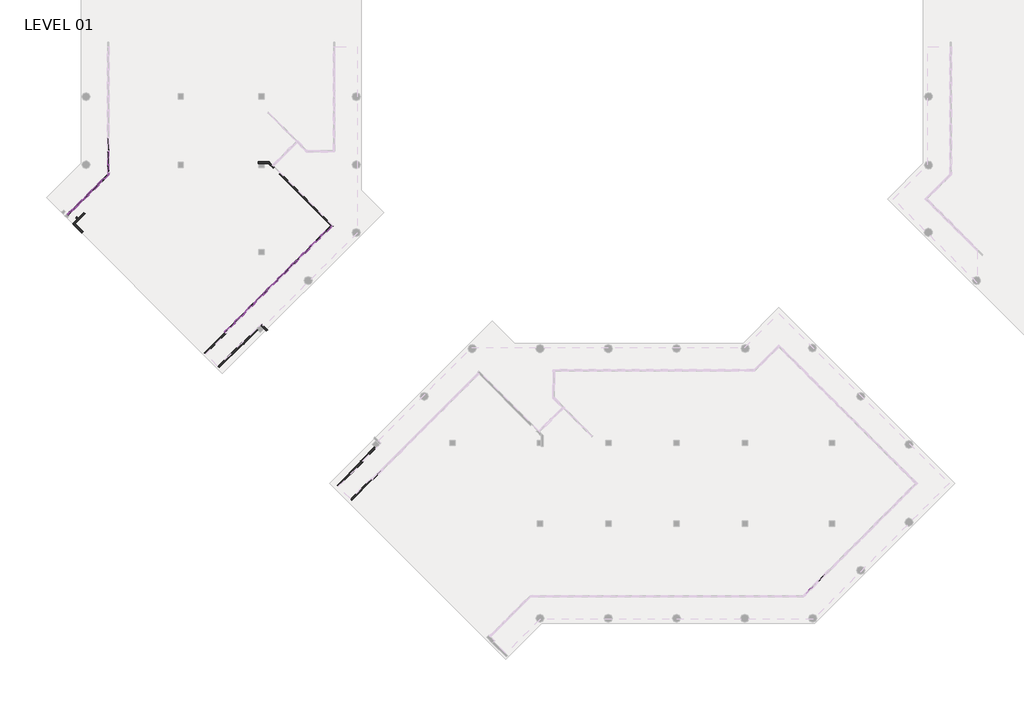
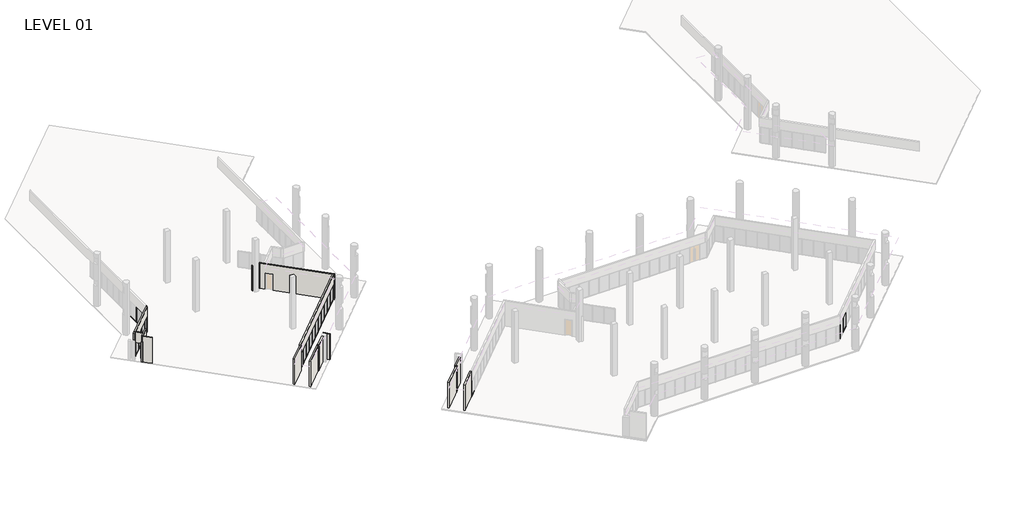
# One storey, part 2 of 24: 64 members, 19 plates, 16 walls.
"""IFC4 building model written with IfcOpenShell, lengths in millimetres."""

from ifc_helpers import new_model, si_unit, frame, origin, origin_with_axes, place, context, project, spatial, polyline, outline, extrude, faceted_brep, transform, mapped, element, save
from components import member_5247f267, member_e44af9ab, member_800970d4, member_cca1f9e6, member_ed5eb8ce, member_224475ab, member_ccf7f6e3, plate_67294edd, plate_ce959b8d, plate_43a54168, plate_d12b1ad5, plate_aaac5d3d, plate_5a14c350, plate_1cd28498

model = new_model("IFC4")

# Units and contexts
model_context = context("Model", 3, world=origin())
ifc_project = project(units=[si_unit("LENGTHUNIT", "METRE", prefix="MILLI")], contexts=[model_context])

# Site, building, storey
site = spatial("IfcSite", under=ifc_project)
building = spatial("IfcBuilding", under=site)
storey = spatial("IfcBuildingStorey", under=building, Name="LEVEL 01", Elevation=0.0)

# Members
placement = place(None, origin())
member_shape = member_5247f267(model_context)
element("IfcMember", 1, ObjectType="Rectangular Mullion : 2\" x 4.5\" rectangular", at=placement, inside=storey, context=model_context, shape_type="MappedRepresentation", body=[
    mapped(member_shape, transform((49217.02106, -686.9515705, 0.0), x_axis=(0.0, 0.0, -1.0), y_axis=(0.7071067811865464, -0.7071067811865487, 0.0), z_axis=(-0.7071067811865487, -0.7071067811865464, 0.0))),
])
element("IfcMember", 2, ObjectType="Rectangular Mullion : 2\" x 4.5\" rectangular", at=placement, inside=storey, context=model_context, shape_type="MappedRepresentation", body=[
    mapped(member_shape, transform((49181.1000355, -722.872595, 2590.8), x_axis=(0.0, 0.0, 1.0), y_axis=(0.7071067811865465, -0.7071067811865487, 0.0), z_axis=(0.7071067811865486, 0.7071067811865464, 0.0))),
])
member_2_shape = member_e44af9ab(model_context)
element("IfcMember", 3, ObjectType="Rectangular Mullion : 2\" x 4.5\" rectangular", at=placement, inside=storey, context=model_context, shape_type="MappedRepresentation", body=[
    mapped(member_2_shape, transform((49199.0605477, -704.9120828, 0.0), x_axis=(0.7071067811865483, 0.7071067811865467, 0.0), y_axis=(0.7071067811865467, -0.7071067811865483, 0.0), z_axis=(0.0, 0.0, -1.0))),
])
element("IfcMember", 4, ObjectType="Rectangular Mullion : 2\" x 4.5\" rectangular", at=placement, inside=storey, context=model_context, shape_type="MappedRepresentation", body=[
    mapped(member_2_shape, transform((48121.4298132, -1782.5428173, 0.0), x_axis=(0.7071067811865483, 0.7071067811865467, 0.0), y_axis=(0.7071067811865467, -0.7071067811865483, 0.0), z_axis=(0.0, 0.0, -1.0))),
])
member_3_shape = member_800970d4(model_context)
element("IfcMember", 5, ObjectType="Rectangular Mullion : 2\" x 4.5\" rectangular", at=placement, inside=storey, context=model_context, shape_type="MappedRepresentation", body=[
    mapped(member_3_shape, transform((-323.363229, 10916.8251457, 2590.8), x_axis=(-0.7071067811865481, -0.7071067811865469, 0.0), y_axis=(0.7071067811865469, -0.7071067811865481, 0.0), z_axis=(0.0, 0.0, 1.0))),
])
member_4_shape = member_cca1f9e6(model_context)
element("IfcMember", 6, ObjectType="Rectangular Mullion : 2\" x 4.5\" rectangular", at=placement, inside=storey, context=model_context, shape_type="MappedRepresentation", body=[
    mapped(member_4_shape, transform((-287.4422045, 10952.7461702, 0.0), x_axis=(0.0, 0.0, -1.0), y_axis=(0.707106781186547, -0.707106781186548, 0.0), z_axis=(-0.707106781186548, -0.707106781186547, 0.0))),
])
member_5_shape = member_ed5eb8ce(model_context)
element("IfcMember", 7, ObjectType="Rectangular Mullion : 2\" x 4.5\" rectangular", at=placement, inside=storey, context=model_context, shape_type="MappedRepresentation", body=[
    mapped(member_5_shape, transform((-29793.1847164, 46062.5675885, 2590.8), x_axis=(0.0, 0.0, 1.0), y_axis=(1.0, 0.0, 0.0), z_axis=(0.0, 1.0, 0.0))),
])
element("IfcMember", 8, ObjectType="Rectangular Mullion : 2\" x 4.5\" rectangular", at=placement, inside=storey, context=model_context, shape_type="MappedRepresentation", body=[
    mapped(member_5_shape, transform((-30534.0558464, 44273.9519611, 2590.8), x_axis=(0.0, 0.0, 1.0), y_axis=(-0.7071067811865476, 0.7071067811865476, 0.0), z_axis=(-0.7071067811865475, -0.7071067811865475, 0.0))),
])
element("IfcMember", 9, ObjectType="Rectangular Mullion : 2\" x 4.5\" rectangular", at=placement, inside=storey, context=model_context, shape_type="MappedRepresentation", body=[
    mapped(member_shape, transform((-29793.1847164, 47586.5675885, 2590.8), x_axis=(0.0, 0.0, 1.0), y_axis=(1.0, 0.0, 0.0), z_axis=(0.0, 1.0, 0.0))),
])
element("IfcMember", 10, ObjectType="Rectangular Mullion : 2\" x 4.5\" rectangular", at=placement, inside=storey, context=model_context, shape_type="MappedRepresentation", body=[
    mapped(member_shape, transform((-12482.5856117, 31661.2611906, 2590.8), x_axis=(0.0, 0.0, 1.0), y_axis=(0.7071067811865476, -0.7071067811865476, 0.0), z_axis=(0.7071067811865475, 0.7071067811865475, 0.0))),
])
element("IfcMember", 11, ObjectType="Rectangular Mullion : 2\" x 4.5\" rectangular", at=placement, inside=storey, context=model_context, shape_type="MappedRepresentation", body=[
    mapped(member_shape, transform((-10327.3537461, 33816.4930562, 2590.8), x_axis=(0.0, 0.0, 1.0), y_axis=(0.7071067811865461, -0.707106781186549, 0.0), z_axis=(0.707106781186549, 0.7071067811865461, 0.0))),
])
element("IfcMember", 12, ObjectType="Rectangular Mullion : 2\" x 4.5\" rectangular", at=placement, inside=storey, context=model_context, shape_type="MappedRepresentation", body=[
    mapped(member_shape, transform((-9249.7378133, 34894.108989, 2590.8), x_axis=(0.0, 0.0, 1.0), y_axis=(0.7071067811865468, -0.7071067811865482, 0.0), z_axis=(0.7071067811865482, 0.7071067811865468, 0.0))),
])
element("IfcMember", 13, ObjectType="Rectangular Mullion : 2\" x 4.5\" rectangular", at=placement, inside=storey, context=model_context, shape_type="MappedRepresentation", body=[
    mapped(member_shape, transform((-7094.4763443, 37049.370458, 2590.8), x_axis=(0.0, 0.0, 1.0), y_axis=(0.7071067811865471, -0.7071067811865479, 0.0), z_axis=(0.7071067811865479, 0.7071067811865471, 0.0))),
])
element("IfcMember", 14, ObjectType="Rectangular Mullion : 2\" x 4.5\" rectangular", at=placement, inside=storey, context=model_context, shape_type="MappedRepresentation", body=[
    mapped(member_shape, transform((-32689.3173154, 42118.6904921, 2590.8), x_axis=(0.0, 0.0, 1.0), y_axis=(-0.7071067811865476, 0.7071067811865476, 0.0), z_axis=(-0.7071067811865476, -0.7071067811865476, 0.0))),
])
element("IfcMember", 15, ObjectType="Rectangular Mullion : 2\" x 4.5\" rectangular", at=placement, inside=storey, context=model_context, shape_type="MappedRepresentation", body=[
    mapped(member_shape, transform((-14637.8174773, 29506.029325, 2590.8), x_axis=(0.0, 0.0, 1.0), y_axis=(0.7071067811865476, -0.7071067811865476, 0.0), z_axis=(0.7071067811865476, 0.7071067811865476, 0.0))),
])
element("IfcMember", 16, ObjectType="Rectangular Mullion : 2\" x 4.5\" rectangular", at=placement, inside=storey, context=model_context, shape_type="MappedRepresentation", body=[
    mapped(member_shape, transform((-11404.9696789, 32738.8771234, 2590.8), x_axis=(0.0, 0.0, 1.0), y_axis=(0.7071067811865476, -0.7071067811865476, 0.0), z_axis=(0.7071067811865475, 0.7071067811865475, 0.0))),
])
element("IfcMember", 17, ObjectType="Rectangular Mullion : 2\" x 4.5\" rectangular", at=placement, inside=storey, context=model_context, shape_type="MappedRepresentation", body=[
    mapped(member_shape, transform((-13560.2015445, 30583.6452578, 2590.8), x_axis=(0.0, 0.0, 1.0), y_axis=(0.7071067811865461, -0.707106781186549, 0.0), z_axis=(0.707106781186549, 0.7071067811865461, 0.0))),
])
element("IfcMember", 18, ObjectType="Rectangular Mullion : 2\" x 4.5\" rectangular", at=placement, inside=storey, context=model_context, shape_type="MappedRepresentation", body=[
    mapped(member_shape, transform((-8172.1070788, 35971.7397235, 2590.8), x_axis=(0.0, 0.0, 1.0), y_axis=(0.7071067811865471, -0.7071067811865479, 0.0), z_axis=(0.7071067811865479, 0.7071067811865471, 0.0))),
])
element("IfcMember", 19, ObjectType="Rectangular Mullion : 2\" x 4.5\" rectangular", at=placement, inside=storey, context=model_context, shape_type="MappedRepresentation", body=[
    mapped(member_shape, transform((-6016.8456097, 38127.0011926, 2590.8), x_axis=(0.0, 0.0, 1.0), y_axis=(0.7071067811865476, -0.7071067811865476, 0.0), z_axis=(0.7071067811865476, 0.7071067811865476, 0.0))),
])
element("IfcMember", 20, ObjectType="Rectangular Mullion : 2\" x 4.5\" rectangular", at=placement, inside=storey, context=model_context, shape_type="MappedRepresentation", body=[
    mapped(member_shape, transform((-31611.6865809, 43196.3212266, 2590.8), x_axis=(0.0, 0.0, 1.0), y_axis=(-0.7071067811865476, 0.7071067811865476, 0.0), z_axis=(-0.7071067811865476, -0.7071067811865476, 0.0))),
])
element("IfcMember", 21, ObjectType="Rectangular Mullion : 2\" x 4.5\" rectangular", at=placement, inside=storey, context=model_context, shape_type="MappedRepresentation", body=[
    mapped(member_shape, transform((-33766.94805, 41041.0597576, 2590.8), x_axis=(0.0, 0.0, 1.0), y_axis=(-0.7071067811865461, 0.707106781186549, 0.0), z_axis=(-0.7071067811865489, -0.707106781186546, 0.0))),
])
element("IfcMember", 22, ObjectType="Rectangular Mullion : 2\" x 4.5\" rectangular", at=placement, inside=storey, context=model_context, shape_type="MappedRepresentation", body=[
    mapped(member_5_shape, transform((-29793.1847164, 45065.6230911, 0.0), x_axis=(0.0, 0.0, -1.0), y_axis=(1.0, 0.0, 0.0), z_axis=(0.0, -1.0, 0.0))),
])
element("IfcMember", 23, ObjectType="Rectangular Mullion : 2\" x 4.5\" rectangular", at=placement, inside=storey, context=model_context, shape_type="MappedRepresentation", body=[
    mapped(member_5_shape, transform((-29829.1057409, 44978.9020666, 0.0), x_axis=(0.0, 0.0, -1.0), y_axis=(-0.7071067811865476, 0.7071067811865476, 0.0), z_axis=(0.7071067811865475, 0.7071067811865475, 0.0))),
])
element("IfcMember", 24, ObjectType="Rectangular Mullion : 2\" x 4.5\" rectangular", at=placement, inside=storey, context=model_context, shape_type="MappedRepresentation", body=[
    mapped(member_shape, transform((-29793.1847164, 46113.3675885, 0.0), x_axis=(0.0, 0.0, -1.0), y_axis=(1.0, 0.0, 0.0), z_axis=(0.0, -1.0, 0.0))),
])
element("IfcMember", 25, ObjectType="Rectangular Mullion : 2\" x 4.5\" rectangular", at=placement, inside=storey, context=model_context, shape_type="MappedRepresentation", body=[
    mapped(member_shape, transform((-29793.1847164, 47637.3675885, 0.0), x_axis=(0.0, 0.0, -1.0), y_axis=(1.0, 0.0, 0.0), z_axis=(0.0, -1.0, 0.0))),
])
element("IfcMember", 26, ObjectType="Rectangular Mullion : 2\" x 4.5\" rectangular", at=placement, inside=storey, context=model_context, shape_type="MappedRepresentation", body=[
    mapped(member_shape, transform((-30569.9768709, 44238.0309367, 0.0), x_axis=(0.0, 0.0, -1.0), y_axis=(-0.7071067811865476, 0.7071067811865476, 0.0), z_axis=(0.7071067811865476, 0.7071067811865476, 0.0))),
])
element("IfcMember", 27, ObjectType="Rectangular Mullion : 2\" x 4.5\" rectangular", at=placement, inside=storey, context=model_context, shape_type="MappedRepresentation", body=[
    mapped(member_shape, transform((-15679.5271874, 28464.3196149, 0.0), x_axis=(0.0, 0.0, -1.0), y_axis=(0.7071067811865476, -0.7071067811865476, 0.0), z_axis=(-0.7071067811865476, -0.7071067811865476, 0.0))),
])
element("IfcMember", 28, ObjectType="Rectangular Mullion : 2\" x 4.5\" rectangular", at=placement, inside=storey, context=model_context, shape_type="MappedRepresentation", body=[
    mapped(member_shape, transform((-12446.6645873, 31697.1822151, 0.0), x_axis=(0.0, 0.0, -1.0), y_axis=(0.7071067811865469, -0.7071067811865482, 0.0), z_axis=(-0.7071067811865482, -0.7071067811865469, 0.0))),
])
element("IfcMember", 29, ObjectType="Rectangular Mullion : 2\" x 4.5\" rectangular", at=placement, inside=storey, context=model_context, shape_type="MappedRepresentation", body=[
    mapped(member_shape, transform((-10291.4327217, 33852.4140807, 0.0), x_axis=(0.0, 0.0, -1.0), y_axis=(0.7071067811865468, -0.7071067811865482, 0.0), z_axis=(-0.7071067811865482, -0.7071067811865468, 0.0))),
])
element("IfcMember", 30, ObjectType="Rectangular Mullion : 2\" x 4.5\" rectangular", at=placement, inside=storey, context=model_context, shape_type="MappedRepresentation", body=[
    mapped(member_shape, transform((-9213.8167888, 34930.0300135, 0.0), x_axis=(0.0, 0.0, -1.0), y_axis=(0.7071067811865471, -0.7071067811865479, 0.0), z_axis=(-0.7071067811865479, -0.7071067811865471, 0.0))),
])
element("IfcMember", 31, ObjectType="Rectangular Mullion : 2\" x 4.5\" rectangular", at=placement, inside=storey, context=model_context, shape_type="MappedRepresentation", body=[
    mapped(member_shape, transform((-7058.5553198, 37085.2914825, 0.0), x_axis=(0.0, 0.0, -1.0), y_axis=(0.7071067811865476, -0.7071067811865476, 0.0), z_axis=(-0.7071067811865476, -0.7071067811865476, 0.0))),
])
element("IfcMember", 32, ObjectType="Rectangular Mullion : 2\" x 4.5\" rectangular", at=placement, inside=storey, context=model_context, shape_type="MappedRepresentation", body=[
    mapped(member_shape, transform((-32725.2383399, 42082.7694676, 0.0), x_axis=(0.0, 0.0, -1.0), y_axis=(-0.7071067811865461, 0.707106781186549, 0.0), z_axis=(0.7071067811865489, 0.707106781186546, 0.0))),
])
element("IfcMember", 33, ObjectType="Rectangular Mullion : 2\" x 4.5\" rectangular", at=placement, inside=storey, context=model_context, shape_type="MappedRepresentation", body=[
    mapped(member_shape, transform((-14601.8964529, 29541.9503495, 0.0), x_axis=(0.0, 0.0, -1.0), y_axis=(0.7071067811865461, -0.707106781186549, 0.0), z_axis=(-0.707106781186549, -0.7071067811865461, 0.0))),
])
element("IfcMember", 34, ObjectType="Rectangular Mullion : 2\" x 4.5\" rectangular", at=placement, inside=storey, context=model_context, shape_type="MappedRepresentation", body=[
    mapped(member_shape, transform((-11369.0486545, 32774.7981479, 0.0), x_axis=(0.0, 0.0, -1.0), y_axis=(0.7071067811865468, -0.7071067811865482, 0.0), z_axis=(-0.7071067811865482, -0.7071067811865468, 0.0))),
])
element("IfcMember", 35, ObjectType="Rectangular Mullion : 2\" x 4.5\" rectangular", at=placement, inside=storey, context=model_context, shape_type="MappedRepresentation", body=[
    mapped(member_shape, transform((-13524.2805201, 30619.5662823, 0.0), x_axis=(0.0, 0.0, -1.0), y_axis=(0.7071067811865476, -0.7071067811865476, 0.0), z_axis=(-0.7071067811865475, -0.7071067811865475, 0.0))),
])
element("IfcMember", 36, ObjectType="Rectangular Mullion : 2\" x 4.5\" rectangular", at=placement, inside=storey, context=model_context, shape_type="MappedRepresentation", body=[
    mapped(member_shape, transform((-8136.1860543, 36007.660748, 0.0), x_axis=(0.0, 0.0, -1.0), y_axis=(0.7071067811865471, -0.7071067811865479, 0.0), z_axis=(-0.7071067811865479, -0.7071067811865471, 0.0))),
])
element("IfcMember", 37, ObjectType="Rectangular Mullion : 2\" x 4.5\" rectangular", at=placement, inside=storey, context=model_context, shape_type="MappedRepresentation", body=[
    mapped(member_shape, transform((-31647.6076054, 43160.4002021, 0.0), x_axis=(0.0, 0.0, -1.0), y_axis=(-0.7071067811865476, 0.7071067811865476, 0.0), z_axis=(0.7071067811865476, 0.7071067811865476, 0.0))),
])
element("IfcMember", 38, ObjectType="Rectangular Mullion : 2\" x 4.5\" rectangular", at=placement, inside=storey, context=model_context, shape_type="MappedRepresentation", body=[
    mapped(member_2_shape, transform((-29793.1847164, 46087.9675885, 0.0), x_axis=(0.0, 1.0, 0.0), y_axis=(1.0, 0.0, 0.0), z_axis=(0.0, 0.0, -1.0))),
])
element("IfcMember", 39, ObjectType="Rectangular Mullion : 2\" x 4.5\" rectangular", at=placement, inside=storey, context=model_context, shape_type="MappedRepresentation", body=[
    mapped(member_2_shape, transform((-29793.1847164, 47611.9675885, 0.0), x_axis=(0.0, 1.0, 0.0), y_axis=(1.0, 0.0, 0.0), z_axis=(0.0, 0.0, -1.0))),
])
element("IfcMember", 40, ObjectType="Rectangular Mullion : 2\" x 4.5\" rectangular", at=placement, inside=storey, context=model_context, shape_type="MappedRepresentation", body=[
    mapped(member_2_shape, transform((-30552.0163586, 44255.9914489, 0.0), x_axis=(-0.7071067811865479, -0.7071067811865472, 0.0), y_axis=(-0.7071067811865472, 0.7071067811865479, 0.0), z_axis=(0.0, 0.0, -1.0))),
])
element("IfcMember", 41, ObjectType="Rectangular Mullion : 2\" x 4.5\" rectangular", at=placement, inside=storey, context=model_context, shape_type="MappedRepresentation", body=[
    mapped(member_2_shape, transform((-15697.4876996, 28446.3591027, 0.0), x_axis=(0.7071067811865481, 0.7071067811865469, 0.0), y_axis=(0.7071067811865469, -0.7071067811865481, 0.0), z_axis=(0.0, 0.0, -1.0))),
])
element("IfcMember", 42, ObjectType="Rectangular Mullion : 2\" x 4.5\" rectangular", at=placement, inside=storey, context=model_context, shape_type="MappedRepresentation", body=[
    mapped(member_2_shape, transform((-12464.6250995, 31679.2217028, 0.0), x_axis=(0.7071067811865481, 0.7071067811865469, 0.0), y_axis=(0.7071067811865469, -0.7071067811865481, 0.0), z_axis=(0.0, 0.0, -1.0))),
])
element("IfcMember", 43, ObjectType="Rectangular Mullion : 2\" x 4.5\" rectangular", at=placement, inside=storey, context=model_context, shape_type="MappedRepresentation", body=[
    mapped(member_2_shape, transform((-10309.3932339, 33834.4535684, 0.0), x_axis=(0.7071067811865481, 0.7071067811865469, 0.0), y_axis=(0.7071067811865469, -0.7071067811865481, 0.0), z_axis=(0.0, 0.0, -1.0))),
])
element("IfcMember", 44, ObjectType="Rectangular Mullion : 2\" x 4.5\" rectangular", at=placement, inside=storey, context=model_context, shape_type="MappedRepresentation", body=[
    mapped(member_2_shape, transform((-9231.7773011, 34912.0695012, 0.0), x_axis=(0.7071067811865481, 0.7071067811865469, 0.0), y_axis=(0.7071067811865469, -0.7071067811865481, 0.0), z_axis=(0.0, 0.0, -1.0))),
])
element("IfcMember", 45, ObjectType="Rectangular Mullion : 2\" x 4.5\" rectangular", at=placement, inside=storey, context=model_context, shape_type="MappedRepresentation", body=[
    mapped(member_2_shape, transform((-7076.515832, 37067.3309703, 0.0), x_axis=(0.7071067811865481, 0.7071067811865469, 0.0), y_axis=(0.7071067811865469, -0.7071067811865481, 0.0), z_axis=(0.0, 0.0, -1.0))),
])
element("IfcMember", 46, ObjectType="Rectangular Mullion : 2\" x 4.5\" rectangular", at=placement, inside=storey, context=model_context, shape_type="MappedRepresentation", body=[
    mapped(member_2_shape, transform((-32707.2778277, 42100.7299798, 0.0), x_axis=(-0.7071067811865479, -0.7071067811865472, 0.0), y_axis=(-0.7071067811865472, 0.7071067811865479, 0.0), z_axis=(0.0, 0.0, -1.0))),
])
element("IfcMember", 47, ObjectType="Rectangular Mullion : 2\" x 4.5\" rectangular", at=placement, inside=storey, context=model_context, shape_type="MappedRepresentation", body=[
    mapped(member_2_shape, transform((-14619.8569651, 29523.9898372, 0.0), x_axis=(0.7071067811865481, 0.7071067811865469, 0.0), y_axis=(0.7071067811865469, -0.7071067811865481, 0.0), z_axis=(0.0, 0.0, -1.0))),
])
element("IfcMember", 48, ObjectType="Rectangular Mullion : 2\" x 4.5\" rectangular", at=placement, inside=storey, context=model_context, shape_type="MappedRepresentation", body=[
    mapped(member_2_shape, transform((-11387.0091667, 32756.8376356, 0.0), x_axis=(0.7071067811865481, 0.7071067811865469, 0.0), y_axis=(0.7071067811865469, -0.7071067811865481, 0.0), z_axis=(0.0, 0.0, -1.0))),
])
element("IfcMember", 49, ObjectType="Rectangular Mullion : 2\" x 4.5\" rectangular", at=placement, inside=storey, context=model_context, shape_type="MappedRepresentation", body=[
    mapped(member_2_shape, transform((-13542.2410323, 30601.60577, 0.0), x_axis=(0.7071067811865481, 0.7071067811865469, 0.0), y_axis=(0.7071067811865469, -0.7071067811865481, 0.0), z_axis=(0.0, 0.0, -1.0))),
])
element("IfcMember", 50, ObjectType="Rectangular Mullion : 2\" x 4.5\" rectangular", at=placement, inside=storey, context=model_context, shape_type="MappedRepresentation", body=[
    mapped(member_2_shape, transform((-8154.1465666, 35989.7002358, 0.0), x_axis=(0.7071067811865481, 0.7071067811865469, 0.0), y_axis=(0.7071067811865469, -0.7071067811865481, 0.0), z_axis=(0.0, 0.0, -1.0))),
])
element("IfcMember", 51, ObjectType="Rectangular Mullion : 2\" x 4.5\" rectangular", at=placement, inside=storey, context=model_context, shape_type="MappedRepresentation", body=[
    mapped(member_2_shape, transform((-5998.8850975, 38144.9617048, 0.0), x_axis=(0.7071067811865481, 0.7071067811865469, 0.0), y_axis=(0.7071067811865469, -0.7071067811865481, 0.0), z_axis=(0.0, 0.0, -1.0))),
])
element("IfcMember", 52, ObjectType="Rectangular Mullion : 2\" x 4.5\" rectangular", at=placement, inside=storey, context=model_context, shape_type="MappedRepresentation", body=[
    mapped(member_2_shape, transform((-31629.6470932, 43178.3607144, 0.0), x_axis=(-0.7071067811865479, -0.7071067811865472, 0.0), y_axis=(-0.7071067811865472, 0.7071067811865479, 0.0), z_axis=(0.0, 0.0, -1.0))),
])
element("IfcMember", 53, ObjectType="Rectangular Mullion : 2\" x 4.5\" rectangular", at=placement, inside=storey, context=model_context, shape_type="MappedRepresentation", body=[
    mapped(member_2_shape, transform((-33784.9085622, 41023.0992453, 0.0), x_axis=(-0.7071067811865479, -0.7071067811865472, 0.0), y_axis=(-0.7071067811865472, 0.7071067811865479, 0.0), z_axis=(0.0, 0.0, -1.0))),
])
element("IfcMember", 54, ObjectType="Rectangular Mullion : 2\" x 4.5\" rectangular", at=placement, inside=storey, context=model_context, shape_type="MappedRepresentation", body=[
    mapped(member_3_shape, transform((-34290.1704187, 40517.8373888, 0.0), x_axis=(-0.7071067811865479, -0.7071067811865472, 0.0), y_axis=(-0.7071067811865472, 0.7071067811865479, 0.0), z_axis=(0.0, 0.0, -1.0))),
])
element("IfcMember", 55, ObjectType="Rectangular Mullion : 2\" x 4.5\" rectangular", at=placement, inside=storey, context=model_context, shape_type="MappedRepresentation", body=[
    mapped(member_3_shape, transform((-4921.254363, 39222.5924393, 0.0), x_axis=(0.7071067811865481, 0.7071067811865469, 0.0), y_axis=(0.7071067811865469, -0.7071067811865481, 0.0), z_axis=(0.0, 0.0, -1.0))),
])
element("IfcMember", 56, ObjectType="Rectangular Mullion : 2\" x 4.5\" rectangular", at=placement, inside=storey, context=model_context, shape_type="MappedRepresentation", body=[
    mapped(member_3_shape, transform((-29793.1847164, 45014.8230911, 2590.8), x_axis=(0.0, -1.0, 0.0), y_axis=(1.0, 0.0, 0.0), z_axis=(0.0, 0.0, 1.0))),
])
element("IfcMember", 57, ObjectType="Rectangular Mullion : 2\" x 4.5\" rectangular", at=placement, inside=storey, context=model_context, shape_type="MappedRepresentation", body=[
    mapped(member_3_shape, transform((-29793.1847164, 45014.8230911, 2590.8), x_axis=(0.7071067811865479, 0.7071067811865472, 0.0), y_axis=(-0.7071067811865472, 0.7071067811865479, 0.0), z_axis=(0.0, 0.0, 1.0))),
])
element("IfcMember", 58, ObjectType="Rectangular Mullion : 2\" x 4.5\" rectangular", at=placement, inside=storey, context=model_context, shape_type="MappedRepresentation", body=[
    mapped(member_3_shape, transform((-16775.1924428, 27368.6543595, 2590.8), x_axis=(-0.7071067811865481, -0.7071067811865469, 0.0), y_axis=(0.7071067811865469, -0.7071067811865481, 0.0), z_axis=(0.0, 0.0, 1.0))),
])
member_6_shape = member_224475ab(model_context)
element("IfcMember", 59, ObjectType="Rectangular Mullion : 2\" x 4.5\" rectangular", at=placement, inside=storey, context=model_context, shape_type="MappedRepresentation", body=[
    mapped(member_6_shape, transform((-34254.2493943, 40553.7584133, 2590.8), x_axis=(0.0, 0.0, 1.0), y_axis=(-0.7071067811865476, 0.7071067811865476, 0.0), z_axis=(-0.7071067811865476, -0.7071067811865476, 0.0))),
])
element("IfcMember", 60, ObjectType="Rectangular Mullion : 2\" x 4.5\" rectangular", at=placement, inside=storey, context=model_context, shape_type="MappedRepresentation", body=[
    mapped(member_6_shape, transform((-33802.8690745, 41005.1387331, 0.0), x_axis=(0.0, 0.0, -1.0), y_axis=(-0.7071067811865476, 0.7071067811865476, 0.0), z_axis=(0.7071067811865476, 0.7071067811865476, 0.0))),
])
element("IfcMember", 61, ObjectType="Rectangular Mullion : 2\" x 4.5\" rectangular", at=placement, inside=storey, context=model_context, shape_type="MappedRepresentation", body=[
    mapped(member_4_shape, transform((-4957.1753875, 39186.6714149, 2590.8), x_axis=(0.0, 0.0, 1.0), y_axis=(0.7071067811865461, -0.707106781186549, 0.0), z_axis=(0.7071067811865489, 0.707106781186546, 0.0))),
])
element("IfcMember", 62, ObjectType="Rectangular Mullion : 2\" x 4.5\" rectangular", at=placement, inside=storey, context=model_context, shape_type="MappedRepresentation", body=[
    mapped(member_4_shape, transform((-15715.4482119, 28428.3985904, 2590.8), x_axis=(0.0, 0.0, 1.0), y_axis=(0.7071067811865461, -0.707106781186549, 0.0), z_axis=(0.707106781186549, 0.7071067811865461, 0.0))),
])
member_7_shape = member_ccf7f6e3(model_context)
element("IfcMember", 63, ObjectType="Rectangular Mullion : 2\" x 4.5\" rectangular", at=placement, inside=storey, context=model_context, shape_type="MappedRepresentation", body=[
    mapped(member_7_shape, transform((-16739.2714183, 27404.575384, 0.0), x_axis=(0.0, 0.0, -1.0), y_axis=(0.7071067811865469, -0.7071067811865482, 0.0), z_axis=(-0.7071067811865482, -0.7071067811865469, 0.0))),
])
element("IfcMember", 64, ObjectType="Rectangular Mullion : 2\" x 4.5\" rectangular", at=placement, inside=storey, context=model_context, shape_type="MappedRepresentation", body=[
    mapped(member_7_shape, transform((-5980.9245853, 38162.9222171, 0.0), x_axis=(0.0, 0.0, -1.0), y_axis=(0.7071067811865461, -0.707106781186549, 0.0), z_axis=(-0.7071067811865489, -0.707106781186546, 0.0))),
])

# Plates
plate_shape = plate_67294edd(model_context)
element("IfcPlate", 65, ObjectType="System Panel : 1/4\" Glass", at=placement, inside=storey, context=model_context, shape_type="MappedRepresentation", body=[
    mapped(plate_shape, transform((49737.875915, -166.0967155, 50.8), x_axis=(0.7071067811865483, 0.7071067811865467, 0.0), y_axis=(-0.7071067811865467, 0.7071067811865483, 0.0), z_axis=(0.0, 0.0, 1.0))),
])
plate_2_shape = plate_ce959b8d(model_context)
element("IfcPlate", 66, ObjectType="System Panel : 1/4\" Glass", at=placement, inside=storey, context=model_context, shape_type="MappedRepresentation", body=[
    mapped(plate_2_shape, transform((-29793.1847164, 45564.0953398, 50.8), x_axis=(0.0, 1.0, 0.0), y_axis=(-1.0, 0.0, 0.0), z_axis=(0.0, 0.0, 1.0))),
])
element("IfcPlate", 67, ObjectType="System Panel : 1/4\" Glass", at=placement, inside=storey, context=model_context, shape_type="MappedRepresentation", body=[
    mapped(plate_shape, transform((-29793.1847164, 46849.9675885, 50.8), x_axis=(0.0, 1.0, 0.0), y_axis=(-1.0, 0.0, 0.0), z_axis=(0.0, 0.0, 1.0))),
])
element("IfcPlate", 68, ObjectType="System Panel : 1/4\" Glass", at=placement, inside=storey, context=model_context, shape_type="MappedRepresentation", body=[
    mapped(plate_shape, transform((-31090.8317259, 43717.1760816, 50.8), x_axis=(-0.7071067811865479, -0.7071067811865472, 0.0), y_axis=(0.7071067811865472, -0.7071067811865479, 0.0), z_axis=(0.0, 0.0, 1.0))),
])
element("IfcPlate", 69, ObjectType="System Panel : 1/4\" Glass", at=placement, inside=storey, context=model_context, shape_type="MappedRepresentation", body=[
    mapped(plate_shape, transform((-15158.6723324, 28985.17447, 50.8), x_axis=(0.7071067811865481, 0.7071067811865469, 0.0), y_axis=(-0.7071067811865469, 0.7071067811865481, 0.0), z_axis=(0.0, 0.0, 1.0))),
])
element("IfcPlate", 70, ObjectType="System Panel : 1/4\" Glass", at=placement, inside=storey, context=model_context, shape_type="MappedRepresentation", body=[
    mapped(plate_shape, transform((-8692.9619338, 35450.8848685, 50.8), x_axis=(0.7071067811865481, 0.7071067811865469, 0.0), y_axis=(-0.7071067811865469, 0.7071067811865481, 0.0), z_axis=(0.0, 0.0, 1.0))),
])
element("IfcPlate", 71, ObjectType="System Panel : 1/4\" Glass", at=placement, inside=storey, context=model_context, shape_type="MappedRepresentation", body=[
    mapped(plate_shape, transform((-6537.7004648, 37606.1463375, 50.8), x_axis=(0.7071067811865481, 0.7071067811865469, 0.0), y_axis=(-0.7071067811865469, 0.7071067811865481, 0.0), z_axis=(0.0, 0.0, 1.0))),
])
element("IfcPlate", 72, ObjectType="System Panel : 1/4\" Glass", at=placement, inside=storey, context=model_context, shape_type="MappedRepresentation", body=[
    mapped(plate_shape, transform((-33246.093195, 41561.9146126, 50.8), x_axis=(-0.7071067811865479, -0.7071067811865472, 0.0), y_axis=(0.7071067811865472, -0.7071067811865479, 0.0), z_axis=(0.0, 0.0, 1.0))),
])
element("IfcPlate", 73, ObjectType="System Panel : 1/4\" Glass", at=placement, inside=storey, context=model_context, shape_type="MappedRepresentation", body=[
    mapped(plate_shape, transform((-7615.3311993, 36528.515603, 50.8), x_axis=(0.7071067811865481, 0.7071067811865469, 0.0), y_axis=(-0.7071067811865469, 0.7071067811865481, 0.0), z_axis=(0.0, 0.0, 1.0))),
])
element("IfcPlate", 74, ObjectType="System Panel : 1/4\" Glass", at=placement, inside=storey, context=model_context, shape_type="MappedRepresentation", body=[
    mapped(plate_shape, transform((-32168.4624604, 42639.5453471, 50.8), x_axis=(-0.7071067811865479, -0.7071067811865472, 0.0), y_axis=(0.7071067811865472, -0.7071067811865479, 0.0), z_axis=(0.0, 0.0, 1.0))),
])
plate_3_shape = plate_43a54168(model_context)
element("IfcPlate", 75, ObjectType="System Panel : 1/4\" Glass", at=placement, inside=storey, context=model_context, shape_type="MappedRepresentation", body=[
    mapped(plate_3_shape, transform((-30181.5807936, 44626.4270139, 50.8), x_axis=(-0.7071067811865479, -0.7071067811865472, 0.0), y_axis=(0.7071067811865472, -0.7071067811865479, 0.0), z_axis=(0.0, 0.0, 1.0))),
])
plate_4_shape = plate_d12b1ad5(model_context)
element("IfcPlate", 76, ObjectType="System Panel : 1/4\" Glass", at=placement, inside=storey, context=model_context, shape_type="MappedRepresentation", body=[
    mapped(plate_4_shape, transform((-16227.3598151, 27916.4869872, 50.8), x_axis=(0.7071067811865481, 0.7071067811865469, 0.0), y_axis=(-0.7071067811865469, 0.7071067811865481, 0.0), z_axis=(0.0, 0.0, 1.0))),
])
plate_5_shape = plate_aaac5d3d(model_context)
element("IfcPlate", 77, ObjectType="System Panel : 1/4\" Glass", at=placement, inside=storey, context=model_context, shape_type="MappedRepresentation", body=[
    mapped(plate_5_shape, transform((-11925.8171331, 32218.0296692, 50.8), x_axis=(0.7071067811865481, 0.7071067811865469, 0.0), y_axis=(-0.7071067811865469, 0.7071067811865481, 0.0), z_axis=(0.0, 0.0, 1.0))),
])
element("IfcPlate", 78, ObjectType="System Panel : 1/4\" Glass", at=placement, inside=storey, context=model_context, shape_type="MappedRepresentation", body=[
    mapped(plate_5_shape, transform((-9770.5852675, 34373.2615348, 50.8), x_axis=(0.7071067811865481, 0.7071067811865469, 0.0), y_axis=(-0.7071067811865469, 0.7071067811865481, 0.0), z_axis=(0.0, 0.0, 1.0))),
])
element("IfcPlate", 79, ObjectType="System Panel : 1/4\" Glass", at=placement, inside=storey, context=model_context, shape_type="MappedRepresentation", body=[
    mapped(plate_5_shape, transform((-14081.0489987, 30062.7978036, 50.8), x_axis=(0.7071067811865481, 0.7071067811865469, 0.0), y_axis=(-0.7071067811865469, 0.7071067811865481, 0.0), z_axis=(0.0, 0.0, 1.0))),
])
element("IfcPlate", 80, ObjectType="System Panel : 1/4\" Glass", at=placement, inside=storey, context=model_context, shape_type="MappedRepresentation", body=[
    mapped(plate_5_shape, transform((-10848.2012003, 33295.645602, 50.8), x_axis=(0.7071067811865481, 0.7071067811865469, 0.0), y_axis=(-0.7071067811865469, 0.7071067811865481, 0.0), z_axis=(0.0, 0.0, 1.0))),
])
element("IfcPlate", 81, ObjectType="System Panel : 1/4\" Glass", at=placement, inside=storey, context=model_context, shape_type="MappedRepresentation", body=[
    mapped(plate_5_shape, transform((-13003.4330659, 31140.4137364, 50.8), x_axis=(0.7071067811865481, 0.7071067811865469, 0.0), y_axis=(-0.7071067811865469, 0.7071067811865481, 0.0), z_axis=(0.0, 0.0, 1.0))),
])
plate_6_shape = plate_5a14c350(model_context)
element("IfcPlate", 82, ObjectType="System Panel : 1/4\" Glass", at=placement, inside=storey, context=model_context, shape_type="MappedRepresentation", body=[
    mapped(plate_6_shape, transform((-5469.0499864, 38674.796816, 50.8), x_axis=(0.7071067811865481, 0.7071067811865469, 0.0), y_axis=(-0.7071067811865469, 0.7071067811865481, 0.0), z_axis=(0.0, 0.0, 1.0))),
])
plate_7_shape = plate_1cd28498(model_context)
element("IfcPlate", 83, ObjectType="System Panel : 1/4\" Glass", at=placement, inside=storey, context=model_context, shape_type="MappedRepresentation", body=[
    mapped(plate_7_shape, transform((-34028.5592344, 40779.4485732, 50.8), x_axis=(-0.7071067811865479, -0.7071067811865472, 0.0), y_axis=(0.7071067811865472, -0.7071067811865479, 0.0), z_axis=(0.0, 0.0, 1.0))),
])

# Walls
element("IfcWall", 84, ObjectType="01-MASONRY-8", at=placement, inside=storey, context=model_context, shape_type="SweptSolid", body=[
    extrude(outline(polyline([(-318.0298477, 10911.6397817), (-2608.7644032, 8620.9052263), (-2752.4485011, 8764.5893243), (-461.7139457, 11055.3238797), (-318.0298477, 10911.6397817)])), origin_with_axes(), (0.0, 0.0, 1.0), 4089.4),
])
element("IfcWall", 85, ObjectType="01-MASONRY-8", at=placement, inside=storey, context=model_context, shape_type="SweptSolid", body=[
    extrude(outline(polyline([(-1464.5509923, 12793.0034391), (-4122.7068041, 10134.8476273), (-4266.3909021, 10278.5317252), (-1608.2350902, 12936.687537), (-1464.5509923, 12793.0034391)])), origin_with_axes(), (0.0, 0.0, 1.0), 4089.4),
])
element("IfcWall", 86, ObjectType="01-MASONRY-8", at=placement, inside=storey, context=model_context, shape_type="Brep", body=[
    faceted_brep([(-1320.8668944, 12936.687537, 0.0), (-1374.7484311, 12990.5690738, 0.0), (-1518.432529, 13134.2531717, 0.0), (-1518.432529, 13134.2531717, 4089.4), (-1374.7484311, 12990.5690738, 4089.4), (-1320.8668944, 12936.687537, 4089.4), (-1464.5509923, 12793.0034391, 0.0), (-1464.5509923, 12793.0034391, 4089.4), (-1608.2350902, 12936.687537, 4089.4), (-1662.116627, 12990.5690738, 4089.4), (-1662.116627, 12990.5690738, 0.0), (-1608.2350902, 12936.687537, 0.0)], [[[0, 1, 2, 3, 4, 5]], [[6, 7, 8, 9, 10, 11]], [[2, 1, 0, 6, 11, 10]], [[5, 4, 3, 9, 8, 7]], [[0, 5, 7, 6]], [[3, 2, 10, 9]]]),
])
element("IfcWall", 87, ObjectType="01-MASONRY-8", at=placement, inside=storey, context=model_context, shape_type="SweptSolid", body=[
    extrude(outline(polyline([(53.8815367, 14419.1990416), (-1374.7484311, 12990.5690738), (-1518.432529, 13134.2531717), (-89.8025612, 14562.8831395), (53.8815367, 14419.1990416)])), origin_with_axes(), (0.0, 0.0, 1.0), 4089.4),
])
element("IfcWall", 88, ObjectType="01-MASONRY-8", at=placement, inside=storey, context=model_context, shape_type="Brep", body=[
    faceted_brep([(-32605.6739368, 38617.8147599, 0.0), (-33492.7946674, 39504.9354906, 0.0), (-33492.7946674, 39504.9354906, 4089.4), (-32605.6739368, 38617.8147599, 4089.4), (-32749.3580347, 38474.130662, 0.0), (-32749.3580347, 38474.130662, 4089.4), (-33636.4787654, 39361.2513927, 4089.4), (-33636.4787654, 39361.2513927, 3225.8), (-33636.4787654, 39361.2513927, 0.0)], [[[0, 1, 2, 3]], [[4, 5, 6, 7, 8]], [[1, 0, 4, 8]], [[3, 2, 6, 5]], [[0, 3, 5, 4]], [[2, 1, 8, 7, 6]]]),
])
element("IfcWall", 89, ObjectType="01-MASONRY-8", at=placement, inside=storey, context=model_context, shape_type="SweptSolid", body=[
    extrude(outline(polyline([(-16636.6937088, 27230.3036428), (-18927.4282643, 24939.5690874), (-19071.1123622, 25083.2531854), (-16780.3778068, 27373.9877408), (-16636.6937088, 27230.3036428)])), origin_with_axes(), (0.0, 0.0, 1.0), 4089.4),
])
element("IfcWall", 90, ObjectType="01-MASONRY-8", at=placement, inside=storey, context=model_context, shape_type="SweptSolid", body=[
    extrude(outline(polyline([(-14755.3300515, 26083.7824983), (-17413.4858633, 23425.6266865), (-17557.1699612, 23569.3107844), (-14899.0141494, 26227.4665962), (-14755.3300515, 26083.7824983)])), origin_with_axes(), (0.0, 0.0, 1.0), 4089.4),
])
element("IfcWall", 91, ObjectType="01-MASONRY-8", at=placement, inside=storey, context=model_context, shape_type="Brep", body=[
    faceted_brep([(-14899.0141494, 26227.4665962, 0.0), (-14755.3300515, 26083.7824983, 0.0), (-14701.4485147, 26029.9009616, 0.0), (-14701.4485147, 26029.9009616, 4089.4), (-14755.3300515, 26083.7824983, 4089.4), (-14899.0141494, 26227.4665962, 4089.4), (-14755.3300515, 26371.1506942, 0.0), (-14755.3300515, 26371.1506942, 4089.4), (-14701.4485147, 26317.2691574, 4089.4), (-14557.7644168, 26173.5850595, 4089.4), (-14557.7644168, 26173.5850595, 0.0), (-14701.4485147, 26317.2691574, 0.0)], [[[0, 1, 2, 3, 4, 5]], [[6, 7, 8, 9, 10, 11]], [[2, 1, 0, 6, 11, 10]], [[5, 4, 3, 9, 8, 7]], [[0, 5, 7, 6]], [[3, 2, 10, 9]]]),
])
element("IfcWall", 92, ObjectType="01-MASONRY-8", at=placement, inside=storey, context=model_context, shape_type="SweptSolid", body=[
    extrude(outline(polyline([(-13129.134449, 27602.2150273), (-14557.7644168, 26173.5850595), (-14701.4485147, 26317.2691574), (-13272.8185469, 27745.8991252), (-13129.134449, 27602.2150273)])), origin_with_axes(), (0.0, 0.0, 1.0), 4089.4),
])
element("IfcWall", 93, ObjectType="01-MASONRY-8", at=placement, inside=storey, context=model_context, shape_type="SweptSolid", body=[
    extrude(outline(polyline([(-12169.165641, 27504.350807), (-12841.7662531, 28176.9514191), (-12698.0821552, 28320.635517), (-12025.4815431, 27648.0349049), (-12169.165641, 27504.350807)])), origin_with_axes(), (0.0, 0.0, 1.0), 4089.4),
])
element("IfcWall", 94, ObjectType="01-MASONRY-8", at=placement, inside=storey, context=model_context, shape_type="Brep", body=[
    faceted_brep([(-33636.4787654, 39361.2513927, 0.0), (-33492.7946674, 39504.9354906, 0.0), (-32379.2429084, 40618.4872496, 0.0), (-32379.2429084, 40618.4872496, 4089.4), (-33492.7946674, 39504.9354906, 4089.4), (-33492.7946674, 39504.9354906, 3225.8), (-33636.4787654, 39361.2513927, 3225.8), (-33780.1628633, 39504.9354906, 0.0), (-33780.1628633, 39504.9354906, 3225.8), (-33636.4787654, 39648.6195885, 3225.8), (-33636.4787654, 39648.6195885, 4089.4), (-33295.2290328, 39989.8693211, 4089.4), (-33151.5449348, 40133.5534191, 4089.4), (-32522.9270064, 40762.1713475, 4089.4), (-32522.9270064, 40762.1713475, 0.0), (-33151.5449348, 40133.5534191, 0.0), (-33295.2290328, 39989.8693211, 0.0)], [[[0, 1, 2, 3, 4, 5, 6]], [[7, 8, 9, 10, 11, 12, 13, 14, 15, 16]], [[2, 1, 0, 7, 16, 15, 14]], [[3, 2, 14, 13]], [[4, 3, 13, 12, 11, 10]], [[5, 9, 8, 6]], [[0, 6, 8, 7]], [[5, 4, 10, 9]]]),
])
element("IfcWall", 95, ObjectType="01-MASONRY-8", at=placement, inside=storey, context=model_context, shape_type="SweptSolid", body=[
    extrude(outline(polyline([(-695.7781688, -4089.4), (-1914.9781688, -4089.4), (-1914.9781688, 0.0), (-1889.5781688, 0.0), (-1889.5781688, -2425.7), (-924.3781688, -2425.7), (-924.3781688, 0.0), (-695.7781688, 0.0), (-695.7781688, -4089.4)])), frame((-32803.2395714, 39497.8798598, 0.0), z_axis=(0.7071067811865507, 0.7071067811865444, 0.0), x_axis=(0.7071067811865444, -0.7071067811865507, 0.0)), (0.0, 0.0, 1.0), 203.2),
])
element("IfcWall", 96, ObjectType="8\" Existing Wall", at=placement, inside=storey, context=model_context, shape_type="Brep", body=[
    faceted_brep([(-11645.3113163, 46234.0175885, 4013.2), (-4665.3170635, 39254.0233358, 4013.2), (-4665.3170635, 39254.0233358, 0.0), (-10574.3255912, 45163.0318634, 0.0), (-10574.3255912, 45163.0318634, 2578.1), (-11256.8250564, 45845.5313286, 2578.1), (-11256.8250564, 45845.5313286, 0.0), (-11645.3113163, 46234.0175885, 0.0), (-4809.0011615, 39110.3392378, 4013.2), (-11932.6795122, 46234.0175885, 4013.2), (-11932.6795122, 46234.0175885, 0.0), (-11400.5091543, 45701.8472307, 0.0), (-11400.5091543, 45701.8472307, 2578.1), (-10718.0096891, 45019.3477655, 2578.1), (-10718.0096891, 45019.3477655, 0.0), (-4809.0011615, 39110.3392378, 0.0)], [[[0, 1, 2, 3, 4, 5, 6, 7]], [[8, 9, 10, 11, 12, 13, 14, 15]], [[2, 15, 14, 3]], [[10, 7, 6, 11]], [[1, 0, 9, 8]], [[2, 1, 8, 15]], [[0, 7, 10, 9]], [[13, 4, 3, 14]], [[4, 13, 12, 5]], [[5, 12, 11, 6]]]),
])
element("IfcWall", 97, ObjectType="8\" Existing Wall", at=placement, inside=storey, context=model_context, shape_type="Brep", body=[
    faceted_brep([(-11848.5113163, 46437.2175885, 0.0), (-13084.3954142, 46437.2175885, 0.0), (-13084.3954142, 46437.2175885, 4013.2), (-11848.5113163, 46437.2175885, 4013.2), (-11645.3113163, 46234.0175885, 0.0), (-11645.3113163, 46234.0175885, 4013.2), (-11932.6795122, 46234.0175885, 4013.2), (-12375.1347164, 46234.0175885, 4013.2), (-12984.7347164, 46234.0175885, 4013.2), (-13084.3954142, 46234.0175885, 4013.2), (-13084.3954142, 46234.0175885, 0.0), (-12984.7347164, 46234.0175885, 0.0), (-12375.1347164, 46234.0175885, 0.0), (-11932.6795122, 46234.0175885, 0.0)], [[[0, 1, 2, 3]], [[4, 5, 6, 7, 8, 9, 10, 11, 12, 13]], [[1, 0, 4, 13, 12, 11, 10]], [[2, 1, 10, 9]], [[3, 2, 9, 8, 7, 6, 5]], [[0, 3, 5, 4]]]),
])
element("IfcWall", 98, ObjectType="8\" Existing Wall", at=placement, inside=storey, context=model_context, shape_type="Brep", body=[
    faceted_brep([(-34218.3283698, 40445.9953398, 2590.8), (-29691.5847164, 44972.7389932, 2590.8), (-29691.5847164, 44972.7389932, 4089.4), (-34218.3283698, 40445.9953398, 4089.4), (-34362.0124677, 40589.6794378, 2590.8), (-34362.0124677, 40589.6794378, 4089.4), (-29894.7847164, 45056.9071891, 4089.4), (-29691.5847164, 45260.1071891, 4089.4), (-29691.5847164, 45260.1071891, 2590.8), (-29894.7847164, 45056.9071891, 2590.8)], [[[0, 1, 2, 3]], [[4, 5, 6, 7, 8, 9]], [[1, 0, 4, 9, 8]], [[3, 2, 7, 6, 5]], [[0, 3, 5, 4]], [[2, 1, 8, 7]]]),
])
element("IfcWall", 99, ObjectType="8\" Existing Wall", at=placement, inside=storey, context=model_context, shape_type="SweptSolid", body=[
    extrude(outline(polyline([(-16847.0344918, 27440.4964085), (-4993.0964119, 39294.4344883), (-4849.412314, 39150.7503904), (-16703.3503938, 27296.8123106), (-16847.0344918, 27440.4964085)])), frame((0.0, 0.0, 2590.8), z_axis=(0.0, 0.0, 1.0), x_axis=(1.0, 0.0, 0.0)), (0.0, 0.0, 1.0), 1498.6),
])

save(model, "model.ifc")
